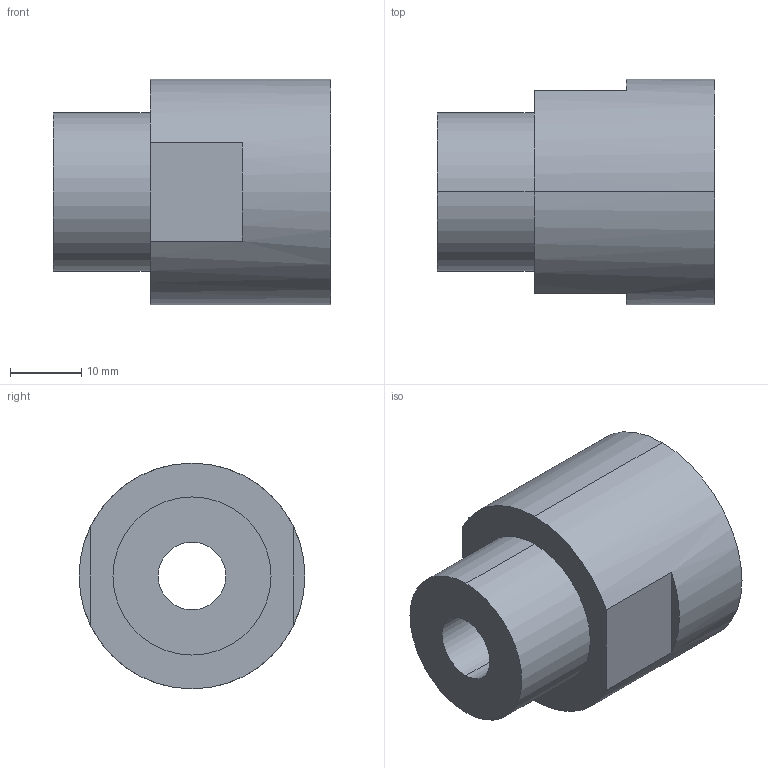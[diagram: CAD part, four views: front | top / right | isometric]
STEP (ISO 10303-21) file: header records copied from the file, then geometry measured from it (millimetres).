
FILE_DESCRIPTION (( 'STEP AP214' ), '1' );
FILE_NAME ('Fitting FNPT 06.STEP', '2012-09-26T20:00:54', ( '' ), ( '' ), 'SwSTEP 2.0', 'SolidWorks 2012', '' );
FILE_SCHEMA (( 'AUTOMOTIVE_DESIGN' ));
Length unit declared in the file: inch
Products named in the file (1): Fitting FNPT 06
Bounding box: 39.01 x 31.75 x 31.75 mm (x, y, z)
Volume: 20586.9 mm3; surface area: 6358.7 mm2
Topology: 1 solids, 1 shells, 16 faces, 36 edges, 24 vertices
Faces by surface type: cylinder 8, plane 8
Entity records: 543 total; most frequent: DIRECTION 90, CARTESIAN_POINT 77, ORIENTED_EDGE 72, AXIS2_PLACEMENT_3D 37, EDGE_CURVE 36, VERTEX_POINT 24, EDGE_LOOP 20, CIRCLE 20
